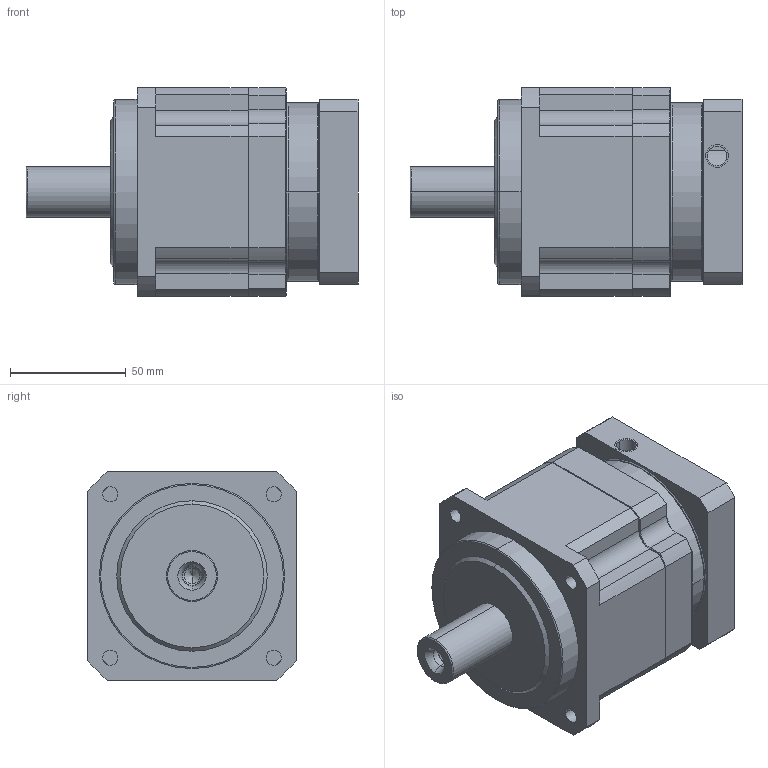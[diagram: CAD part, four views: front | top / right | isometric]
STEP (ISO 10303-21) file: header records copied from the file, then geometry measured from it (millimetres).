
FILE_DESCRIPTION((''),'2;1');
FILE_NAME('AB0901-P0403300208_ASM','2021-10-20T',('Administrator'),(''),'PRO/ENGINEER BY PARAMETRIC TECHNOLOGY CORPORATION, 2015240','PRO/ENGINEER BY PARAMETRIC TECHNOLOGY CORPORATION, 2015240','');
FILE_SCHEMA(('CONFIG_CONTROL_DESIGN'));
Length unit declared in the file: millimetre
Products named in the file (6): P1301300001_D; AB090; AB-INPUTSHAFT-3; AB0901_ASM; P0403300208-0002; AB0901-P0403300208_ASM
Assembly tree (5 placements, depth 3):
  AB0901-P0403300208_ASM
    AB0901_ASM
      P1301300001_D
      AB090
      AB-INPUTSHAFT-3
    P0403300208-0002
Bounding box: 143.5 x 90 x 90 mm (x, y, z)
Volume: 648224.5 mm3; surface area: 93870.1 mm2
Topology: 4 solids, 10 shells, 258 faces, 623 edges, 399 vertices
Faces by surface type: cylinder 131, plane 85, cone 22, torus 20
Entity records: 7966 total; most frequent: CARTESIAN_POINT 1509, DIRECTION 1451, ORIENTED_EDGE 1216, EDGE_CURVE 621, AXIS2_PLACEMENT_3D 589, VERTEX_POINT 399, EDGE_LOOP 314, CIRCLE 313
